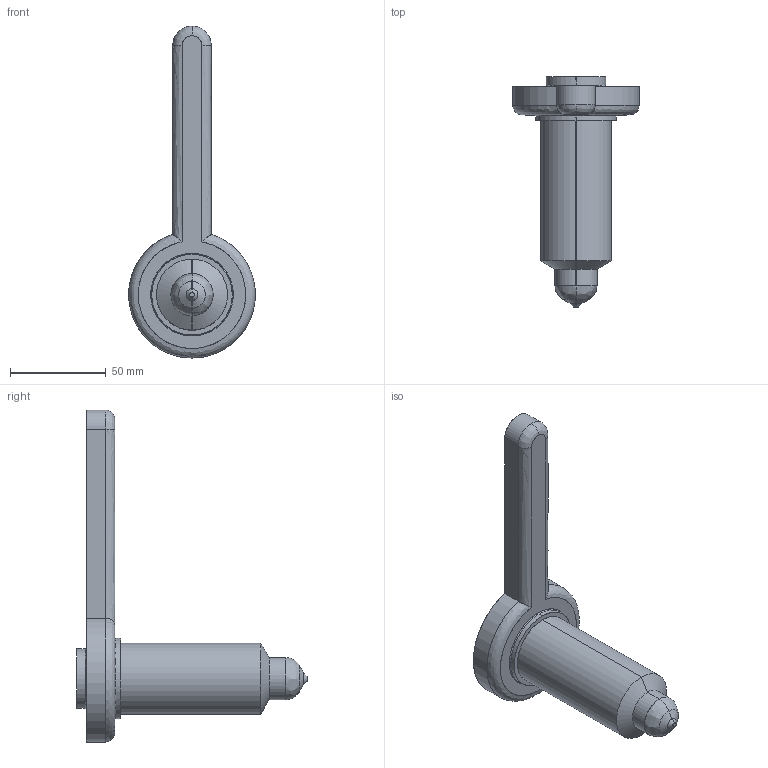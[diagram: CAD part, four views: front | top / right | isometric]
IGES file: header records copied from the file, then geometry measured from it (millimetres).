
Start section: SolidWorks IGES file using analytic representation for surfaces
Global section: file name: C:\Users\luca.EMPAD\Desktop\TEM\Sede UGDL3613-S-A C-97 L-115 Ød-2.5.IGS; native system: SolidWorks 2012; preprocessor: SolidWorks 2012; author: luca; date: 120330.161920; units: millimetre
Bounding box: 65.98 x 120.3 x 173 mm (x, y, z)
Surface area: 26715 mm2 (no closed solid volume)
Topology: 0 solids, 0 shells, 37 faces, 674 edges, 674 vertices
Faces by surface type: revolution 25, bspline 12
